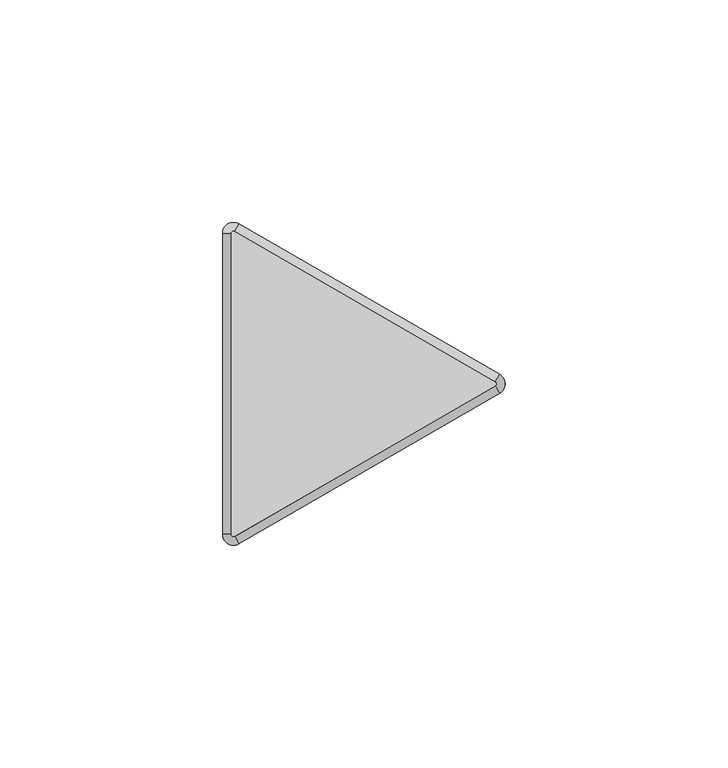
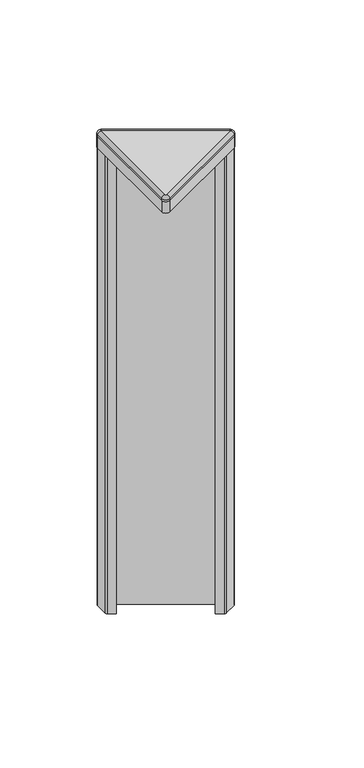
"""IFC4 building model written with IfcOpenShell, lengths in millimetres: furniture geometry, Steelcase - Answer Solution - Panel - 120deg Change-of-Height Trim - Thin : V Corner - 12H for 78H App."""

from ifc_helpers import new_model, si_unit, point, frame, frame_2d, origin, place, context, project, spatial, polyline, circle_curve, ellipse_curve, trimmed, segment, composite_curve, outline, extrude, source, transform, mapped, element, save
from ifc_brep_helpers import plane_surface, cylinder_surface, revolved_surface, advanced_brep


def furniture_fd471485(model_context):
    return source(origin(), model_context, "Body", "SolidModel", [
        advanced_brep(
        [(-10.518645, -37.3335529, 1985.6628978), (-14.2052101, -35.2051135, 1985.6628978), (-14.2052101, -35.2051135, 1984.7164663), (-10.518645, -37.3335529, 1984.7164663), (-11.46175, -35.7000471, 1987.55), (-12.319, -35.2051135, 1987.55), (-11.46175, -35.7000471, 1984.7164663), (-12.319, -35.2051135, 1984.7164663), (48.0429908, -3.5229767, 1984.7164663), (48.0429908, -3.5229767, 1985.6628978), (47.0998858, -1.8894709, 1987.55), (47.0998858, -1.8894709, 1984.7164663), (48.0429908, 0.733902, 1985.6628978), (48.0429908, 0.733902, 1984.7164663), (47.0998858, -0.8996038, 1987.55), (47.0998858, -0.8996038, 1984.7164663), (-10.518645, 34.5444782, 1984.7164663), (-14.2052101, 32.4160388, 1984.7164663), (-11.46175, 32.9109723, 1984.7164663), (-12.319, 32.4160388, 1984.7164663), (-10.518645, 34.5444782, 1985.6628978), (-11.46175, 32.9109723, 1987.55), (-14.2052101, 32.4160388, 1985.6628978), (-12.319, 32.4160388, 1987.55)],
        [
            (0, 1, circle_curve(frame((-11.7475, -35.2051135, 1985.6628978), z_axis=(0.0, 0.0, -1.0), x_axis=(-1.0, 0.0, 0.0)), 2.4577101)),
            (1, 2),
            (2, 3, circle_curve(frame((-11.7475, -35.2051135, 1984.7164663), z_axis=(0.0, 0.0, 1.0), x_axis=(-1.0, 0.0, 0.0)), 2.4577101)),
            (3, 0),
            (4, 5, circle_curve(frame((-11.7475, -35.2051135, 1987.55), z_axis=(0.0, 0.0, -1.0), x_axis=(-1.0, 0.0, 0.0)), 0.5715)),
            (5, 1, circle_curve(frame((-12.3181076, -35.2051135, 1985.6628978), z_axis=(0.0, -1.0, 0.0), x_axis=(1.0, 0.0, 0.0)), 1.8871024)),
            (0, 4, circle_curve(frame((-11.4621962, -35.6992743, 1985.6628978), z_axis=(-0.8660254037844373, -0.5000000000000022, 0.0), x_axis=(-0.5000000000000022, 0.8660254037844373, 0.0)), 1.8871024)),
            (6, 7, circle_curve(frame((-11.7475, -35.2051135, 1984.7164663), z_axis=(0.0, 0.0, -1.0), x_axis=(-1.0, 0.0, 0.0)), 0.5715)),
            (7, 5),
            (4, 6),
            (3, 8),
            (8, 9),
            (9, 0),
            (9, 10, circle_curve(frame((47.0994396, -1.8886981, 1985.6628978), z_axis=(-0.8660254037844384, -0.5000000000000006, 0.0), x_axis=(-0.5000000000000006, 0.8660254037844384, 0.0)), 1.8871024)),
            (10, 4),
            (10, 11),
            (11, 6),
            (12, 9, circle_curve(frame((46.8141358, -1.3945374, 1985.6628978), z_axis=(0.0, 0.0, -1.0), x_axis=(0.4999999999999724, -0.8660254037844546, 0.0)), 2.4577101)),
            (8, 13, circle_curve(frame((46.8141358, -1.3945374, 1984.7164663), z_axis=(0.0, 0.0, 1.0), x_axis=(0.4999999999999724, -0.8660254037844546, 0.0)), 2.4577101)),
            (13, 12),
            (14, 10, circle_curve(frame((46.8141358, -1.3945374, 1987.55), z_axis=(0.0, 0.0, -1.0), x_axis=(0.4999999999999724, -0.8660254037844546, 0.0)), 0.5715)),
            (12, 14, circle_curve(frame((47.0994396, -0.9003766, 1985.6628978), z_axis=(0.8660254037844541, -0.49999999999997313, 0.0), x_axis=(-0.49999999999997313, -0.8660254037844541, 0.0)), 1.8871024)),
            (15, 11, circle_curve(frame((46.8141358, -1.3945374, 1984.7164663), z_axis=(0.0, 0.0, -1.0), x_axis=(0.4999999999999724, -0.8660254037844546, 0.0)), 0.5715)),
            (14, 15),
            (16, 13),
            (2, 17),
            (17, 16, circle_curve(frame((-11.7475, 32.4160388, 1984.7164663), z_axis=(0.0, 0.0, -1.0), x_axis=(0.500000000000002, 0.8660254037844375, 0.0)), 2.4577101)),
            (15, 18),
            (18, 19, circle_curve(frame((-11.7475, 32.4160388, 1984.7164663), z_axis=(0.0, 0.0, 1.0), x_axis=(0.500000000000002, 0.8660254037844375, 0.0)), 0.5715)),
            (19, 7),
            (16, 20),
            (20, 12),
            (20, 21, circle_curve(frame((-11.4621962, 32.9101995, 1985.6628978), z_axis=(0.8660254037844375, -0.5000000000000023, 0.0), x_axis=(-0.5000000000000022, -0.8660254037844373, 0.0)), 1.8871024)),
            (21, 14),
            (21, 18),
            (22, 20, circle_curve(frame((-11.7475, 32.4160388, 1985.6628978), z_axis=(0.0, 0.0, -1.0), x_axis=(0.500000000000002, 0.8660254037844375, 0.0)), 2.4577101)),
            (17, 22),
            (23, 21, circle_curve(frame((-11.7475, 32.4160388, 1987.55), z_axis=(0.0, 0.0, -1.0), x_axis=(0.500000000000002, 0.8660254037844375, 0.0)), 0.5715)),
            (22, 23, circle_curve(frame((-12.3181076, 32.4160388, 1985.6628978), z_axis=(0.0, 1.0, 0.0), x_axis=(1.0, 0.0, 0.0)), 1.8871024)),
            (23, 19),
            (1, 22),
            (5, 23),
        ],
        [
            cylinder_surface(frame((-11.7475, -35.2051135, 0.0), z_axis=(0.0, 0.0, 1.0), x_axis=(-1.0, 0.0, 0.0)), 2.4577101),
            revolved_surface(trimmed(ellipse_curve(frame((-12.3181076, -35.2051135, 1985.6628978), z_axis=(0.0, 1.0, 0.0), x_axis=(1.0, 0.0, 0.0)), 1.8871024, 1.8871024), [point((-14.2052101, -35.2051135, 1985.6628978))], [point((-12.319, -35.2051135, 1987.55))], True, "CARTESIAN"), (-11.7475, -35.2051135, 0.0), (0.0, 0.0, 1.0)),
            revolved_surface(polyline([(-12.319, -35.2051135, 1987.55), (-12.319, -35.2051135, 1984.7164663)]), (-11.7475, -35.2051135, 0.0), (0.0, 0.0, 1.0)),
            plane_surface(frame((-10.518645, -37.3335529, 1984.7164663), z_axis=(0.5000000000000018, -0.8660254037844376, 0.0), x_axis=(0.8660254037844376, 0.5000000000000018, 0.0))),
            cylinder_surface(frame((-11.4621962, -35.6992743, 1985.6628978), z_axis=(-0.8660254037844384, -0.5000000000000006, 0.0), x_axis=(-0.5000000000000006, 0.8660254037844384, 0.0)), 1.8871024),
            plane_surface(frame((-11.46175, -35.7000471, 1987.55), z_axis=(-0.5000000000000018, 0.8660254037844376, 0.0), x_axis=(0.8660254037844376, 0.5000000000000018, 0.0))),
            cylinder_surface(frame((46.8141358, -1.3945374, 0.0), z_axis=(0.0, 0.0, 1.0), x_axis=(0.4999999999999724, -0.8660254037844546, 0.0)), 2.4577101),
            revolved_surface(trimmed(ellipse_curve(frame((47.0994396, -1.8886981, 1985.6628978), z_axis=(-0.8660254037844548, -0.499999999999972, 0.0), x_axis=(-0.499999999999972, 0.8660254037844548, 0.0)), 1.8871024, 1.8871024), [point((48.0429908, -3.5229767, 1985.6628978))], [point((47.0998858, -1.8894709, 1987.55))], True, "CARTESIAN"), (46.8141358, -1.3945374, 0.0), (0.0, 0.0, 1.0)),
            revolved_surface(polyline([(47.09988579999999, -1.8894709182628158, 1987.55), (47.09988579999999, -1.8894709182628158, 1984.7164663)]), (46.8141358, -1.3945374, 0.0), (0.0, 0.0, 1.0)),
            plane_surface(frame((47.0998858, -0.8996038, 1984.7164663), z_axis=(0.0, 0.0, -1.0), x_axis=(-0.8660254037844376, 0.5000000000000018, 0.0))),
            plane_surface(frame((48.0429908, 0.733902, 1984.7164663), z_axis=(0.5000000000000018, 0.8660254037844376, 0.0), x_axis=(-0.8660254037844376, 0.5000000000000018, 0.0))),
            cylinder_surface(frame((47.0994396, -0.9003766, 1985.6628978), z_axis=(0.8660254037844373, -0.5000000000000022, 0.0), x_axis=(-0.5000000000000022, -0.8660254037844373, 0.0)), 1.8871024),
            plane_surface(frame((47.0998858, -0.8996038, 1987.55), z_axis=(-0.5000000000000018, -0.8660254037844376, 0.0), x_axis=(-0.8660254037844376, 0.5000000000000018, 0.0))),
            cylinder_surface(frame((-11.7475, 32.4160388, 0.0), z_axis=(0.0, 0.0, 1.0), x_axis=(0.500000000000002, 0.8660254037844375, 0.0)), 2.4577101),
            revolved_surface(trimmed(ellipse_curve(frame((-11.4621962, 32.9101995, 1985.6628978), z_axis=(0.866025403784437, -0.5000000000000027, 0.0), x_axis=(-0.5000000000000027, -0.866025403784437, 0.0)), 1.8871024, 1.8871024), [point((-10.518645, 34.5444782, 1985.6628978))], [point((-11.46175, 32.9109723, 1987.55))], True, "CARTESIAN"), (-11.7475, 32.4160388, 0.0), (0.0, 0.0, 1.0)),
            revolved_surface(polyline([(-11.461749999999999, 32.91097231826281, 1987.55), (-11.461749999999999, 32.91097231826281, 1984.7164663)]), (-11.7475, 32.4160388, 0.0), (0.0, 0.0, 1.0)),
            plane_surface(frame((-14.2052101, 32.4160388, 1984.7164663), z_axis=(-1.0, 0.0, 0.0), x_axis=(0.0, -1.0, 0.0))),
            cylinder_surface(frame((-12.3181076, 32.4160388, 1985.6628978), z_axis=(0.0, 1.0, 0.0), x_axis=(1.0, 0.0, 0.0)), 1.8871024),
            plane_surface(frame((-12.319, 32.4160388, 1987.55), z_axis=(1.0, 0.0, 0.0), x_axis=(0.0, -1.0, 0.0))),
        ],
        [
            (0, [[1, 2, 3, 4]]),
            (1, [[5, 6, -1, 7]]),
            (2, [[8, 9, -5, 10]]),
            (3, [[-4, 11, 12, 13]]),
            (4, [[-7, -13, 14, 15]]),
            (5, [[-10, -15, 16, 17]]),
            (6, [[18, -12, 19, 20]]),
            (7, [[21, -14, -18, 22]]),
            (8, [[23, -16, -21, 24]]),
            (9, [[25, -19, -11, -3, 26, 27], [-8, -17, -23, 28, 29, 30]]),
            (10, [[-20, -25, 31, 32]]),
            (11, [[-22, -32, 33, 34]]),
            (12, [[-24, -34, 35, -28]]),
            (13, [[36, -31, -27, 37]]),
            (14, [[38, -33, -36, 39]]),
            (15, [[-29, -35, -38, 40]]),
            (16, [[-37, -26, -2, 41]]),
            (17, [[-39, -41, -6, 42]]),
            (18, [[-40, -42, -9, -30]]),
        ],
    ),
        extrude(outline(composite_curve([segment(trimmed(circle_curve(frame_2d((46.8261011, -1.3945374)), 0.5655173), [point((47.1088598, -0.904785))], [point((47.1088598, -1.8842897))], False, "CARTESIAN"), True, "CONTINUOUS"), segment(polyline([(47.1088598, -1.8842897), (-11.4505119, -35.6935587)]), True, "CONTINUOUS"), segment(trimmed(circle_curve(frame_2d((-11.7400079, -35.1921369)), 0.5789921), [point((-11.4505119, -35.6935587))], [point((-12.319, -35.1921369))], False, "CARTESIAN"), True, "CONTINUOUS"), segment(polyline([(-12.319, -35.1921369), (-12.319, 32.3985888)]), True, "CONTINUOUS"), segment(trimmed(circle_curve(frame_2d((-11.7374252, 32.3985888)), 0.5815748), [point((-12.319, 32.3985888))], [point((-11.4466378, 32.9022473))], False, "CARTESIAN"), True, "CONTINUOUS"), segment(polyline([(-11.4466378, 32.9022473), (47.1088598, -0.904785)]), True, "CONTINUOUS")], self_intersect=False)), frame((0.0, 0.0, 1984.7164663), z_axis=(0.0, 0.0, 1.0), x_axis=(1.0, 0.0, 0.0)), (0.0, 0.0, 1.0), 2.8335337),
        extrude(outline(composite_curve([segment(trimmed(circle_curve(frame_2d((47.9608454, -1.3945374)), 1.2935425), [point((48.6076166, -0.2742967))], [point((48.6076166, -2.514778))], False, "CARTESIAN"), True, "CONTINUOUS"), segment(polyline([(48.6076166, -2.514778), (41.722656, -6.4898119)]), True, "CONTINUOUS"), segment(trimmed(circle_curve(frame_2d((41.0991304, -5.4098338)), 1.2470513), [point((41.722656, -6.4898119))], [point((40.4756048, -6.4898119))], False, "CARTESIAN"), True, "CONTINUOUS"), segment(polyline([(40.4756048, -6.4898119), (36.3239304, -4.0928416), (36.7811304, -3.300948), (41.0991304, -5.7939464), (47.3502407, -2.1848662)]), True, "CONTINUOUS"), segment(trimmed(circle_curve(frame_2d((46.8939441, -1.3945374)), 0.9125932), [point((47.3502407, -2.1848662))], [point((47.3502407, -0.6042085))], True, "CARTESIAN"), True, "CONTINUOUS"), segment(polyline([(47.3502407, -0.6042085), (-11.3312768, 33.2755814)]), True, "CONTINUOUS"), segment(trimmed(circle_curve(frame_2d((-11.7875179, 32.4853487)), 0.9124821), [point((-11.3312768, 33.2755814))], [point((-12.7, 32.4853487))], True, "CARTESIAN"), True, "CONTINUOUS"), segment(polyline([(-12.7, 32.4853487), (-12.7, 25.266996), (-8.382, 22.7739975), (-8.8392, 21.9821039), (-12.9583282, 24.3602837)]), True, "CONTINUOUS"), segment(trimmed(circle_curve(frame_2d((-12.3022565, 25.4966333)), 1.3121435), [point((-12.9583282, 24.3602837))], [point((-13.6144, 25.4966333))], False, "CARTESIAN"), True, "CONTINUOUS"), segment(polyline([(-13.6144, 25.4966333), (-13.6144, 33.3957138)]), True, "CONTINUOUS"), segment(trimmed(circle_curve(frame_2d((-12.3131174, 33.3957138)), 1.3012826), [point((-13.6144, 33.3957138))], [point((-11.6624761, 34.5226576))], False, "CARTESIAN"), True, "CONTINUOUS"), segment(polyline([(-11.6624761, 34.5226576), (48.6076166, -0.2742967)]), True, "CONTINUOUS")], self_intersect=False)), frame((0.0, 0.0, 1682.75), z_axis=(0.0, 0.0, 1.0), x_axis=(1.0, 0.0, 0.0)), (0.0, 0.0, 1.0), 294.64),
        extrude(outline(composite_curve([segment(trimmed(circle_curve(frame_2d((46.8140443, -1.3945374)), 2.4577558), [point((48.0429222, 0.7339416))], [point((48.0429222, -3.5230163))], False, "CARTESIAN"), True, "CONTINUOUS"), segment(polyline([(48.0429222, -3.5230163), (-10.518058, -37.333214)]), True, "CONTINUOUS"), segment(trimmed(circle_curve(frame_2d((-11.7471087, -35.2044357)), 2.4581014), [point((-10.518058, -37.333214))], [point((-14.2052101, -35.2044357))], False, "CARTESIAN"), True, "CONTINUOUS"), segment(polyline([(-14.2052101, -35.2044357), (-14.2052101, 32.4160388)]), True, "CONTINUOUS"), segment(trimmed(circle_curve(frame_2d((-11.7475, 32.4160388)), 2.4577101), [point((-14.2052101, 32.4160388))], [point((-10.518645, 34.5444782))], False, "CARTESIAN"), True, "CONTINUOUS"), segment(polyline([(-10.518645, 34.5444782), (48.0429222, 0.7339416)]), True, "CONTINUOUS")], self_intersect=False)), frame((0.0, 0.0, 1977.39), z_axis=(0.0, 0.0, 1.0), x_axis=(1.0, 0.0, 0.0)), (0.0, 0.0, 1.0), 7.3264663),
    ])


if __name__ == "__main__":
    model = new_model("IFC4")
    model_context = context("Model", 3, world=origin())
    ifc_project = project(units=[si_unit("LENGTHUNIT", "METRE", prefix="MILLI")], contexts=[model_context])
    site = spatial("IfcSite", under=ifc_project)
    building = spatial("IfcBuilding", under=site)
    placement = place(None, origin())
    furniture_shape = furniture_fd471485(model_context)
    element("IfcFurniture", 1, ObjectType="Steelcase - Answer Solution - Panel - 120deg Change-of-Height Trim - Thin : V Corner - 12H for 78H App", at=placement, inside=building, context=model_context, shape_type="MappedRepresentation", body=[
        mapped(furniture_shape, transform((0.0, 0.0, 0.0), x_axis=(1.0, 0.0, 0.0), y_axis=(0.0, 1.0, 0.0), z_axis=(0.0, 0.0, 1.0))),
    ])
    save(model, "model.ifc")
